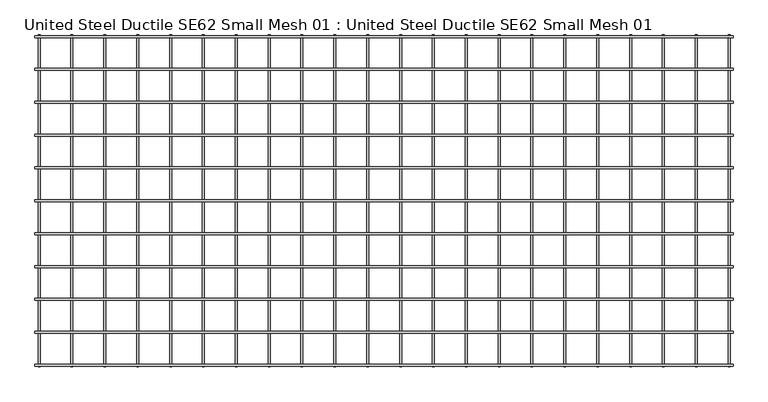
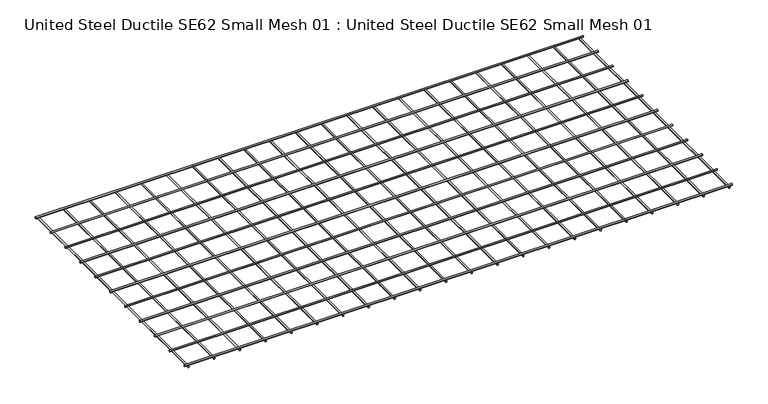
"""IFC4 building model written with IfcOpenShell, lengths in millimetres: proxy geometry, United Steel Ductile SE62 Small Mesh 01 : United Steel Ductile SE62 Small Mesh 01."""

from ifc_helpers import new_model, si_unit, point, frame, frame_2d, origin, place, context, project, spatial, circle_curve, trimmed, segment, composite_curve, outline, extrude, source, transform, mapped, element, save


def united_steel_ductile_se62_small_mesh_01_united_steel_ductile_c7d32ac2(model_context):
    return source(origin(), model_context, "Body", "SweptSolid", [
        extrude(outline(composite_curve([segment(trimmed(circle_curve(frame_2d((-2010.0, 30.4692612)), 6.1), [point((-2016.1, 30.4692612))], [point((-2003.9, 30.4692612))], False, "CARTESIAN"), True, "CONTINUOUS"), segment(trimmed(circle_curve(frame_2d((-2010.0, 30.4692612)), 6.1), [point((-2003.9, 30.4692612))], [point((-2016.1, 30.4692612))], False, "CARTESIAN"), True, "CONTINUOUS")], self_intersect=False)), frame((-4225.625, 0.0, 0.0), z_axis=(1.0, 0.0, 0.0), x_axis=(0.0, 1.0, 0.0)), (0.0, 0.0, 1.0), 4250.0),
        extrude(outline(composite_curve([segment(trimmed(circle_curve(frame_2d((-1610.0, 30.4692612)), 6.1), [point((-1616.1, 30.4692612))], [point((-1603.9, 30.4692612))], False, "CARTESIAN"), True, "CONTINUOUS"), segment(trimmed(circle_curve(frame_2d((-1610.0, 30.4692612)), 6.1), [point((-1603.9, 30.4692612))], [point((-1616.1, 30.4692612))], False, "CARTESIAN"), True, "CONTINUOUS")], self_intersect=False)), frame((-4225.625, 0.0, 0.0), z_axis=(1.0, 0.0, 0.0), x_axis=(0.0, 1.0, 0.0)), (0.0, 0.0, 1.0), 4250.0),
        extrude(outline(composite_curve([segment(trimmed(circle_curve(frame_2d((-1410.0, 30.4692612)), 6.1), [point((-1416.1, 30.4692612))], [point((-1403.9, 30.4692612))], False, "CARTESIAN"), True, "CONTINUOUS"), segment(trimmed(circle_curve(frame_2d((-1410.0, 30.4692612)), 6.1), [point((-1403.9, 30.4692612))], [point((-1416.1, 30.4692612))], False, "CARTESIAN"), True, "CONTINUOUS")], self_intersect=False)), frame((-4225.625, 0.0, 0.0), z_axis=(1.0, 0.0, 0.0), x_axis=(0.0, 1.0, 0.0)), (0.0, 0.0, 1.0), 4250.0),
        extrude(outline(composite_curve([segment(trimmed(circle_curve(frame_2d((-1210.0, 30.4692612)), 6.1), [point((-1216.1, 30.4692612))], [point((-1203.9, 30.4692612))], False, "CARTESIAN"), True, "CONTINUOUS"), segment(trimmed(circle_curve(frame_2d((-1210.0, 30.4692612)), 6.1), [point((-1203.9, 30.4692612))], [point((-1216.1, 30.4692612))], False, "CARTESIAN"), True, "CONTINUOUS")], self_intersect=False)), frame((-4225.625, 0.0, 0.0), z_axis=(1.0, 0.0, 0.0), x_axis=(0.0, 1.0, 0.0)), (0.0, 0.0, 1.0), 4250.0),
        extrude(outline(composite_curve([segment(trimmed(circle_curve(frame_2d((-1010.0, 30.4692612)), 6.1), [point((-1016.1, 30.4692612))], [point((-1003.9, 30.4692612))], False, "CARTESIAN"), True, "CONTINUOUS"), segment(trimmed(circle_curve(frame_2d((-1010.0, 30.4692612)), 6.1), [point((-1003.9, 30.4692612))], [point((-1016.1, 30.4692612))], False, "CARTESIAN"), True, "CONTINUOUS")], self_intersect=False)), frame((-4225.625, 0.0, 0.0), z_axis=(1.0, 0.0, 0.0), x_axis=(0.0, 1.0, 0.0)), (0.0, 0.0, 1.0), 4250.0),
        extrude(outline(composite_curve([segment(trimmed(circle_curve(frame_2d((-810.0, 30.4692612)), 6.1), [point((-816.1, 30.4692612))], [point((-803.9, 30.4692612))], False, "CARTESIAN"), True, "CONTINUOUS"), segment(trimmed(circle_curve(frame_2d((-810.0, 30.4692612)), 6.1), [point((-803.9, 30.4692612))], [point((-816.1, 30.4692612))], False, "CARTESIAN"), True, "CONTINUOUS")], self_intersect=False)), frame((-4225.625, 0.0, 0.0), z_axis=(1.0, 0.0, 0.0), x_axis=(0.0, 1.0, 0.0)), (0.0, 0.0, 1.0), 4250.0),
        extrude(outline(composite_curve([segment(trimmed(circle_curve(frame_2d((-610.0, 30.4692612)), 6.1), [point((-616.1, 30.4692612))], [point((-603.9, 30.4692612))], False, "CARTESIAN"), True, "CONTINUOUS"), segment(trimmed(circle_curve(frame_2d((-610.0, 30.4692612)), 6.1), [point((-603.9, 30.4692612))], [point((-616.1, 30.4692612))], False, "CARTESIAN"), True, "CONTINUOUS")], self_intersect=False)), frame((-4225.625, 0.0, 0.0), z_axis=(1.0, 0.0, 0.0), x_axis=(0.0, 1.0, 0.0)), (0.0, 0.0, 1.0), 4250.0),
        extrude(outline(composite_curve([segment(trimmed(circle_curve(frame_2d((-410.0, 30.4692612)), 6.1), [point((-416.1, 30.4692612))], [point((-403.9, 30.4692612))], False, "CARTESIAN"), True, "CONTINUOUS"), segment(trimmed(circle_curve(frame_2d((-410.0, 30.4692612)), 6.1), [point((-403.9, 30.4692612))], [point((-416.1, 30.4692612))], False, "CARTESIAN"), True, "CONTINUOUS")], self_intersect=False)), frame((-4225.625, 0.0, 0.0), z_axis=(1.0, 0.0, 0.0), x_axis=(0.0, 1.0, 0.0)), (0.0, 0.0, 1.0), 4250.0),
        extrude(outline(composite_curve([segment(trimmed(circle_curve(frame_2d((-210.0, 30.4692612)), 6.1), [point((-216.1, 30.4692612))], [point((-203.9, 30.4692612))], False, "CARTESIAN"), True, "CONTINUOUS"), segment(trimmed(circle_curve(frame_2d((-210.0, 30.4692612)), 6.1), [point((-203.9, 30.4692612))], [point((-216.1, 30.4692612))], False, "CARTESIAN"), True, "CONTINUOUS")], self_intersect=False)), frame((-4225.625, 0.0, 0.0), z_axis=(1.0, 0.0, 0.0), x_axis=(0.0, 1.0, 0.0)), (0.0, 0.0, 1.0), 4250.0),
        extrude(outline(composite_curve([segment(trimmed(circle_curve(frame_2d((-1810.0, 30.4692612)), 6.1), [point((-1816.1, 30.4692612))], [point((-1803.9, 30.4692612))], False, "CARTESIAN"), True, "CONTINUOUS"), segment(trimmed(circle_curve(frame_2d((-1810.0, 30.4692612)), 6.1), [point((-1803.9, 30.4692612))], [point((-1816.1, 30.4692612))], False, "CARTESIAN"), True, "CONTINUOUS")], self_intersect=False)), frame((-4225.625, 0.0, 0.0), z_axis=(1.0, 0.0, 0.0), x_axis=(0.0, 1.0, 0.0)), (0.0, 0.0, 1.0), 4250.0),
        extrude(outline(composite_curve([segment(trimmed(circle_curve(frame_2d((-10.0, 30.4692612)), 6.1), [point((-16.1, 30.4692612))], [point((-3.9, 30.4692612))], False, "CARTESIAN"), True, "CONTINUOUS"), segment(trimmed(circle_curve(frame_2d((-10.0, 30.4692612)), 6.1), [point((-3.9, 30.4692612))], [point((-16.1, 30.4692612))], False, "CARTESIAN"), True, "CONTINUOUS")], self_intersect=False)), frame((-4225.625, 0.0, 0.0), z_axis=(1.0, 0.0, 0.0), x_axis=(0.0, 1.0, 0.0)), (0.0, 0.0, 1.0), 4250.0),
        extrude(outline(composite_curve([segment(trimmed(circle_curve(frame_2d((18.2862568, -4000.0)), 6.1), [point((18.2862568, -4006.1))], [point((18.2862568, -3993.9))], False, "CARTESIAN"), True, "CONTINUOUS"), segment(trimmed(circle_curve(frame_2d((18.2862568, -4000.0)), 6.1), [point((18.2862568, -3993.9))], [point((18.2862568, -4006.1))], False, "CARTESIAN"), True, "CONTINUOUS")], self_intersect=False)), frame((0.0, -2020.0, 0.0), z_axis=(0.0, 1.0, 0.0), x_axis=(0.0, 0.0, 1.0)), (0.0, 0.0, 1.0), 2020.0),
        extrude(outline(composite_curve([segment(trimmed(circle_curve(frame_2d((18.2862568, -3800.0)), 6.1), [point((18.2862568, -3806.1))], [point((18.2862568, -3793.9))], False, "CARTESIAN"), True, "CONTINUOUS"), segment(trimmed(circle_curve(frame_2d((18.2862568, -3800.0)), 6.1), [point((18.2862568, -3793.9))], [point((18.2862568, -3806.1))], False, "CARTESIAN"), True, "CONTINUOUS")], self_intersect=False)), frame((0.0, -2020.0, 0.0), z_axis=(0.0, 1.0, 0.0), x_axis=(0.0, 0.0, 1.0)), (0.0, 0.0, 1.0), 2020.0),
        extrude(outline(composite_curve([segment(trimmed(circle_curve(frame_2d((18.2862568, -3600.0)), 6.1), [point((18.2862568, -3606.1))], [point((18.2862568, -3593.9))], False, "CARTESIAN"), True, "CONTINUOUS"), segment(trimmed(circle_curve(frame_2d((18.2862568, -3600.0)), 6.1), [point((18.2862568, -3593.9))], [point((18.2862568, -3606.1))], False, "CARTESIAN"), True, "CONTINUOUS")], self_intersect=False)), frame((0.0, -2020.0, 0.0), z_axis=(0.0, 1.0, 0.0), x_axis=(0.0, 0.0, 1.0)), (0.0, 0.0, 1.0), 2020.0),
        extrude(outline(composite_curve([segment(trimmed(circle_curve(frame_2d((18.2862568, -3400.0)), 6.1), [point((18.2862568, -3406.1))], [point((18.2862568, -3393.9))], False, "CARTESIAN"), True, "CONTINUOUS"), segment(trimmed(circle_curve(frame_2d((18.2862568, -3400.0)), 6.1), [point((18.2862568, -3393.9))], [point((18.2862568, -3406.1))], False, "CARTESIAN"), True, "CONTINUOUS")], self_intersect=False)), frame((0.0, -2020.0, 0.0), z_axis=(0.0, 1.0, 0.0), x_axis=(0.0, 0.0, 1.0)), (0.0, 0.0, 1.0), 2020.0),
        extrude(outline(composite_curve([segment(trimmed(circle_curve(frame_2d((18.2862568, -3200.0)), 6.1), [point((18.2862568, -3206.1))], [point((18.2862568, -3193.9))], False, "CARTESIAN"), True, "CONTINUOUS"), segment(trimmed(circle_curve(frame_2d((18.2862568, -3200.0)), 6.1), [point((18.2862568, -3193.9))], [point((18.2862568, -3206.1))], False, "CARTESIAN"), True, "CONTINUOUS")], self_intersect=False)), frame((0.0, -2020.0, 0.0), z_axis=(0.0, 1.0, 0.0), x_axis=(0.0, 0.0, 1.0)), (0.0, 0.0, 1.0), 2020.0),
        extrude(outline(composite_curve([segment(trimmed(circle_curve(frame_2d((18.2862568, -3000.0)), 6.1), [point((18.2862568, -3006.1))], [point((18.2862568, -2993.9))], False, "CARTESIAN"), True, "CONTINUOUS"), segment(trimmed(circle_curve(frame_2d((18.2862568, -3000.0)), 6.1), [point((18.2862568, -2993.9))], [point((18.2862568, -3006.1))], False, "CARTESIAN"), True, "CONTINUOUS")], self_intersect=False)), frame((0.0, -2020.0, 0.0), z_axis=(0.0, 1.0, 0.0), x_axis=(0.0, 0.0, 1.0)), (0.0, 0.0, 1.0), 2020.0),
        extrude(outline(composite_curve([segment(trimmed(circle_curve(frame_2d((18.2862568, -2800.0)), 6.1), [point((18.2862568, -2806.1))], [point((18.2862568, -2793.9))], False, "CARTESIAN"), True, "CONTINUOUS"), segment(trimmed(circle_curve(frame_2d((18.2862568, -2800.0)), 6.1), [point((18.2862568, -2793.9))], [point((18.2862568, -2806.1))], False, "CARTESIAN"), True, "CONTINUOUS")], self_intersect=False)), frame((0.0, -2020.0, 0.0), z_axis=(0.0, 1.0, 0.0), x_axis=(0.0, 0.0, 1.0)), (0.0, 0.0, 1.0), 2020.0),
        extrude(outline(composite_curve([segment(trimmed(circle_curve(frame_2d((18.2862568, -2600.0)), 6.1), [point((18.2862568, -2606.1))], [point((18.2862568, -2593.9))], False, "CARTESIAN"), True, "CONTINUOUS"), segment(trimmed(circle_curve(frame_2d((18.2862568, -2600.0)), 6.1), [point((18.2862568, -2593.9))], [point((18.2862568, -2606.1))], False, "CARTESIAN"), True, "CONTINUOUS")], self_intersect=False)), frame((0.0, -2020.0, 0.0), z_axis=(0.0, 1.0, 0.0), x_axis=(0.0, 0.0, 1.0)), (0.0, 0.0, 1.0), 2020.0),
        extrude(outline(composite_curve([segment(trimmed(circle_curve(frame_2d((18.2862568, -2400.0)), 6.1), [point((18.2862568, -2406.1))], [point((18.2862568, -2393.9))], False, "CARTESIAN"), True, "CONTINUOUS"), segment(trimmed(circle_curve(frame_2d((18.2862568, -2400.0)), 6.1), [point((18.2862568, -2393.9))], [point((18.2862568, -2406.1))], False, "CARTESIAN"), True, "CONTINUOUS")], self_intersect=False)), frame((0.0, -2020.0, 0.0), z_axis=(0.0, 1.0, 0.0), x_axis=(0.0, 0.0, 1.0)), (0.0, 0.0, 1.0), 2020.0),
        extrude(outline(composite_curve([segment(trimmed(circle_curve(frame_2d((18.2862568, -2200.0)), 6.1), [point((18.2862568, -2206.1))], [point((18.2862568, -2193.9))], False, "CARTESIAN"), True, "CONTINUOUS"), segment(trimmed(circle_curve(frame_2d((18.2862568, -2200.0)), 6.1), [point((18.2862568, -2193.9))], [point((18.2862568, -2206.1))], False, "CARTESIAN"), True, "CONTINUOUS")], self_intersect=False)), frame((0.0, -2020.0, 0.0), z_axis=(0.0, 1.0, 0.0), x_axis=(0.0, 0.0, 1.0)), (0.0, 0.0, 1.0), 2020.0),
        extrude(outline(composite_curve([segment(trimmed(circle_curve(frame_2d((18.2862568, -2000.0)), 6.1), [point((18.2862568, -2006.1))], [point((18.2862568, -1993.9))], False, "CARTESIAN"), True, "CONTINUOUS"), segment(trimmed(circle_curve(frame_2d((18.2862568, -2000.0)), 6.1), [point((18.2862568, -1993.9))], [point((18.2862568, -2006.1))], False, "CARTESIAN"), True, "CONTINUOUS")], self_intersect=False)), frame((0.0, -2020.0, 0.0), z_axis=(0.0, 1.0, 0.0), x_axis=(0.0, 0.0, 1.0)), (0.0, 0.0, 1.0), 2020.0),
        extrude(outline(composite_curve([segment(trimmed(circle_curve(frame_2d((18.2862568, -1800.0)), 6.1), [point((18.2862568, -1806.1))], [point((18.2862568, -1793.9))], False, "CARTESIAN"), True, "CONTINUOUS"), segment(trimmed(circle_curve(frame_2d((18.2862568, -1800.0)), 6.1), [point((18.2862568, -1793.9))], [point((18.2862568, -1806.1))], False, "CARTESIAN"), True, "CONTINUOUS")], self_intersect=False)), frame((0.0, -2020.0, 0.0), z_axis=(0.0, 1.0, 0.0), x_axis=(0.0, 0.0, 1.0)), (0.0, 0.0, 1.0), 2020.0),
        extrude(outline(composite_curve([segment(trimmed(circle_curve(frame_2d((18.2862568, -1600.0)), 6.1), [point((18.2862568, -1606.1))], [point((18.2862568, -1593.9))], False, "CARTESIAN"), True, "CONTINUOUS"), segment(trimmed(circle_curve(frame_2d((18.2862568, -1600.0)), 6.1), [point((18.2862568, -1593.9))], [point((18.2862568, -1606.1))], False, "CARTESIAN"), True, "CONTINUOUS")], self_intersect=False)), frame((0.0, -2020.0, 0.0), z_axis=(0.0, 1.0, 0.0), x_axis=(0.0, 0.0, 1.0)), (0.0, 0.0, 1.0), 2020.0),
        extrude(outline(composite_curve([segment(trimmed(circle_curve(frame_2d((18.2862568, -1400.0)), 6.1), [point((18.2862568, -1406.1))], [point((18.2862568, -1393.9))], False, "CARTESIAN"), True, "CONTINUOUS"), segment(trimmed(circle_curve(frame_2d((18.2862568, -1400.0)), 6.1), [point((18.2862568, -1393.9))], [point((18.2862568, -1406.1))], False, "CARTESIAN"), True, "CONTINUOUS")], self_intersect=False)), frame((0.0, -2020.0, 0.0), z_axis=(0.0, 1.0, 0.0), x_axis=(0.0, 0.0, 1.0)), (0.0, 0.0, 1.0), 2020.0),
        extrude(outline(composite_curve([segment(trimmed(circle_curve(frame_2d((18.2862568, -1200.0)), 6.1), [point((18.2862568, -1206.1))], [point((18.2862568, -1193.9))], False, "CARTESIAN"), True, "CONTINUOUS"), segment(trimmed(circle_curve(frame_2d((18.2862568, -1200.0)), 6.1), [point((18.2862568, -1193.9))], [point((18.2862568, -1206.1))], False, "CARTESIAN"), True, "CONTINUOUS")], self_intersect=False)), frame((0.0, -2020.0, 0.0), z_axis=(0.0, 1.0, 0.0), x_axis=(0.0, 0.0, 1.0)), (0.0, 0.0, 1.0), 2020.0),
        extrude(outline(composite_curve([segment(trimmed(circle_curve(frame_2d((18.2862568, -1000.0)), 6.1), [point((18.2862568, -1006.1))], [point((18.2862568, -993.9))], False, "CARTESIAN"), True, "CONTINUOUS"), segment(trimmed(circle_curve(frame_2d((18.2862568, -1000.0)), 6.1), [point((18.2862568, -993.9))], [point((18.2862568, -1006.1))], False, "CARTESIAN"), True, "CONTINUOUS")], self_intersect=False)), frame((0.0, -2020.0, 0.0), z_axis=(0.0, 1.0, 0.0), x_axis=(0.0, 0.0, 1.0)), (0.0, 0.0, 1.0), 2020.0),
        extrude(outline(composite_curve([segment(trimmed(circle_curve(frame_2d((18.2862568, -800.0)), 6.1), [point((18.2862568, -806.1))], [point((18.2862568, -793.9))], False, "CARTESIAN"), True, "CONTINUOUS"), segment(trimmed(circle_curve(frame_2d((18.2862568, -800.0)), 6.1), [point((18.2862568, -793.9))], [point((18.2862568, -806.1))], False, "CARTESIAN"), True, "CONTINUOUS")], self_intersect=False)), frame((0.0, -2020.0, 0.0), z_axis=(0.0, 1.0, 0.0), x_axis=(0.0, 0.0, 1.0)), (0.0, 0.0, 1.0), 2020.0),
        extrude(outline(composite_curve([segment(trimmed(circle_curve(frame_2d((18.2862568, -600.0)), 6.1), [point((18.2862568, -606.1))], [point((18.2862568, -593.9))], False, "CARTESIAN"), True, "CONTINUOUS"), segment(trimmed(circle_curve(frame_2d((18.2862568, -600.0)), 6.1), [point((18.2862568, -593.9))], [point((18.2862568, -606.1))], False, "CARTESIAN"), True, "CONTINUOUS")], self_intersect=False)), frame((0.0, -2020.0, 0.0), z_axis=(0.0, 1.0, 0.0), x_axis=(0.0, 0.0, 1.0)), (0.0, 0.0, 1.0), 2020.0),
        extrude(outline(composite_curve([segment(trimmed(circle_curve(frame_2d((18.2862568, -400.0)), 6.1), [point((18.2862568, -406.1))], [point((18.2862568, -393.9))], False, "CARTESIAN"), True, "CONTINUOUS"), segment(trimmed(circle_curve(frame_2d((18.2862568, -400.0)), 6.1), [point((18.2862568, -393.9))], [point((18.2862568, -406.1))], False, "CARTESIAN"), True, "CONTINUOUS")], self_intersect=False)), frame((0.0, -2020.0, 0.0), z_axis=(0.0, 1.0, 0.0), x_axis=(0.0, 0.0, 1.0)), (0.0, 0.0, 1.0), 2020.0),
        extrude(outline(composite_curve([segment(trimmed(circle_curve(frame_2d((18.2862568, -200.0)), 6.1), [point((18.2862568, -206.1))], [point((18.2862568, -193.9))], False, "CARTESIAN"), True, "CONTINUOUS"), segment(trimmed(circle_curve(frame_2d((18.2862568, -200.0)), 6.1), [point((18.2862568, -193.9))], [point((18.2862568, -206.1))], False, "CARTESIAN"), True, "CONTINUOUS")], self_intersect=False)), frame((0.0, -2020.0, 0.0), z_axis=(0.0, 1.0, 0.0), x_axis=(0.0, 0.0, 1.0)), (0.0, 0.0, 1.0), 2020.0),
        extrude(outline(composite_curve([segment(trimmed(circle_curve(frame_2d((18.2862568, -4200.0)), 6.1), [point((18.2862568, -4206.1))], [point((18.2862568, -4193.9))], False, "CARTESIAN"), True, "CONTINUOUS"), segment(trimmed(circle_curve(frame_2d((18.2862568, -4200.0)), 6.1), [point((18.2862568, -4193.9))], [point((18.2862568, -4206.1))], False, "CARTESIAN"), True, "CONTINUOUS")], self_intersect=False)), frame((0.0, -2020.0, 0.0), z_axis=(0.0, 1.0, 0.0), x_axis=(0.0, 0.0, 1.0)), (0.0, 0.0, 1.0), 2020.0),
        extrude(outline(composite_curve([segment(trimmed(circle_curve(frame_2d((18.2862568, 0.0)), 6.1), [point((18.2862568, -6.1))], [point((18.2862568, 6.1))], False, "CARTESIAN"), True, "CONTINUOUS"), segment(trimmed(circle_curve(frame_2d((18.2862568, 0.0)), 6.1), [point((18.2862568, 6.1))], [point((18.2862568, -6.1))], False, "CARTESIAN"), True, "CONTINUOUS")], self_intersect=False)), frame((0.0, -2020.0, 0.0), z_axis=(0.0, 1.0, 0.0), x_axis=(0.0, 0.0, 1.0)), (0.0, 0.0, 1.0), 2020.0),
    ])


if __name__ == "__main__":
    model = new_model("IFC4")
    model_context = context("Model", 3, world=origin())
    ifc_project = project(units=[si_unit("LENGTHUNIT", "METRE", prefix="MILLI")], contexts=[model_context])
    site = spatial("IfcSite", under=ifc_project)
    building = spatial("IfcBuilding", under=site)
    placement = place(None, origin())
    united_steel_ductile_se62_small_mesh_01_united_steel_ductile_shape = united_steel_ductile_se62_small_mesh_01_united_steel_ductile_c7d32ac2(model_context)
    element("IfcBuildingElementProxy", 1, Name="United Steel Ductile SE62 Small Mesh 01 : United Steel Ductile SE62 Small Mesh 01", ObjectType="United Steel Ductile SE62 Small Mesh 01 : United Steel Ductile SE62 Small Mesh 01", at=placement, inside=building, context=model_context, shape_type="MappedRepresentation", body=[
        mapped(united_steel_ductile_se62_small_mesh_01_united_steel_ductile_shape, transform((0.0, 0.0, 0.0), x_axis=(1.0, 0.0, 0.0), y_axis=(0.0, 1.0, 0.0), z_axis=(0.0, 0.0, 1.0))),
    ])
    save(model, "model.ifc")
